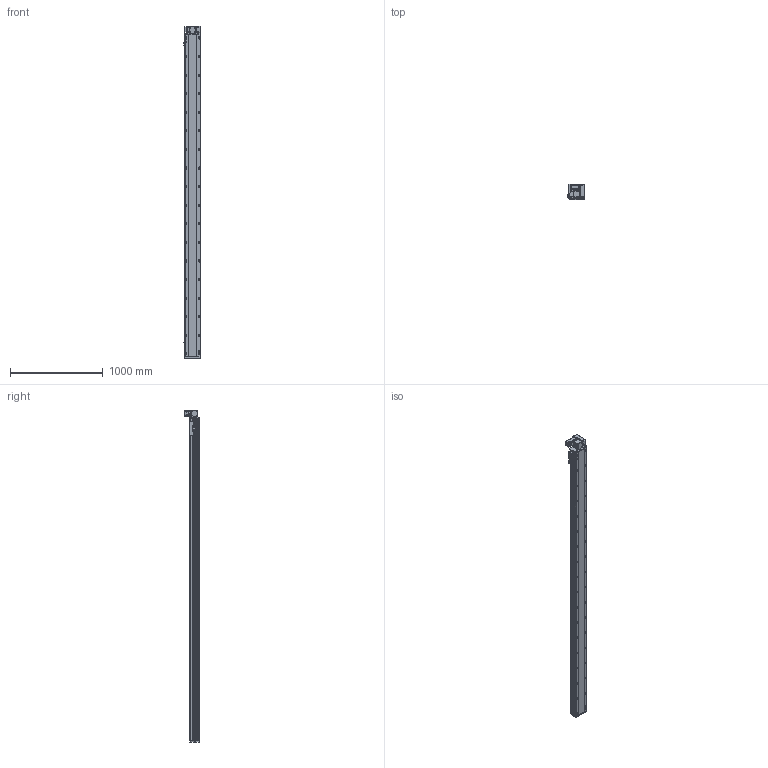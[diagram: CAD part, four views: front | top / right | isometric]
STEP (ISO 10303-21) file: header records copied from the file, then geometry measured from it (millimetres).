
FILE_DESCRIPTION (( 'STEP AP214' ), '1' );
FILE_NAME ('RTB17S-XX-3200-RW-M40-C4.STEP', '2025-12-11T09:18:53', ( '' ), ( '' ), 'SwSTEP 2.0', 'SolidWorks 2018', '' );
FILE_SCHEMA (( 'AUTOMOTIVE_DESIGN' ));
Length unit declared in the file: millimetre
Products named in the file (14): RTB14-L-018P^RTB17S-RW-々湍釱蚾饜-400W_RTB17S-XX-XX-RW-M40-C4; RTB17S-RW-々湍釱蚾饜-400W^RTB17S-XX-XX-RW-M40-C4; RTB14-L-008-M20--萇儂啣^RTB17S-RW-々湍釱蚾饜-400W_RTB17S-XX-XX-RW-M40-C4; RTB17-R-011菁釱^RTB17S-XX-XX-RW-M40-C4; OMRON EE-SX672 传感器^RTB17S-XX-XX-RW-M40-C4; RMP17S-L-014-T20--々湍釱^RTB17S-RW-々湍釱蚾饜-400W_RTB17S-XX-XX-RW-M40-C4; 400W侜督萇儂^RTB17S-XX-XX-RW-M40-C4; RTH13-BL-012覜茼え俋离^RTB17S-XX-XX-RW-M40-C4; RTB17S-L-004佪裝蹟譫蟀諉釱^RTB17S-XX-XX-RW-M40-C4; RTB14-L-017P^RTB17S-RW-々湍釱蚾饜-400W_RTB17S-XX-XX-RW-M40-C4; RTB17S-L-001耜醱啣^RTB17S-XX-XX-RW-M40-C4; RTB17S-L-007奻裔^RTB17S-XX-XX-RW-M40-C4; RTB14-L-005P--轴承塑胶压盖^RTB17S-RW-皮带座装配-400W_RTB17S-XX-XX-RW-M40-C4; RTB17S-XX-3200-RW-M40-C4
Assembly tree (16 placements, depth 3):
  RTB17S-XX-3200-RW-M40-C4
    RTB17-R-011菁釱^RTB17S-XX-XX-RW-M40-C4
    RTB17S-L-007奻裔^RTB17S-XX-XX-RW-M40-C4
    OMRON EE-SX672 传感器^RTB17S-XX-XX-RW-M40-C4  x3
    RTB17S-L-001耜醱啣^RTB17S-XX-XX-RW-M40-C4
    400W侜督萇儂^RTB17S-XX-XX-RW-M40-C4
    RTB17S-L-004佪裝蹟譫蟀諉釱^RTB17S-XX-XX-RW-M40-C4
    RTH13-BL-012覜茼え俋离^RTB17S-XX-XX-RW-M40-C4
    RTB17S-RW-々湍釱蚾饜-400W^RTB17S-XX-XX-RW-M40-C4
      RMP17S-L-014-T20--々湍釱^RTB17S-RW-々湍釱蚾饜-400W_RTB17S-XX-XX-RW-M40-C4
      RTB14-L-005P--轴承塑胶压盖^RTB17S-RW-皮带座装配-400W_RTB17S-XX-XX-RW-M40-C4
      RTB14-L-008-M20--萇儂啣^RTB17S-RW-々湍釱蚾饜-400W_RTB17S-XX-XX-RW-M40-C4
      RTB14-L-017P^RTB17S-RW-々湍釱蚾饜-400W_RTB17S-XX-XX-RW-M40-C4  x2
      RTB14-L-018P^RTB17S-RW-々湍釱蚾饜-400W_RTB17S-XX-XX-RW-M40-C4
Bounding box: 183.5 x 160.5 x 3572.5 mm (x, y, z)
Volume: 30317776.9 mm3; surface area: 3453606.6 mm2
Topology: 15 solids, 15 shells, 2381 faces, 6681 edges, 4365 vertices
Faces by surface type: plane 1090, cylinder 843, bspline 301, cone 139, torus 8
Entity records: 71081 total; most frequent: CARTESIAN_POINT 20286, ORIENTED_EDGE 10206, DIRECTION 9386, EDGE_CURVE 5103, VERTEX_POINT 3353, AXIS2_PLACEMENT_3D 3283, LINE 2820, VECTOR 2820
